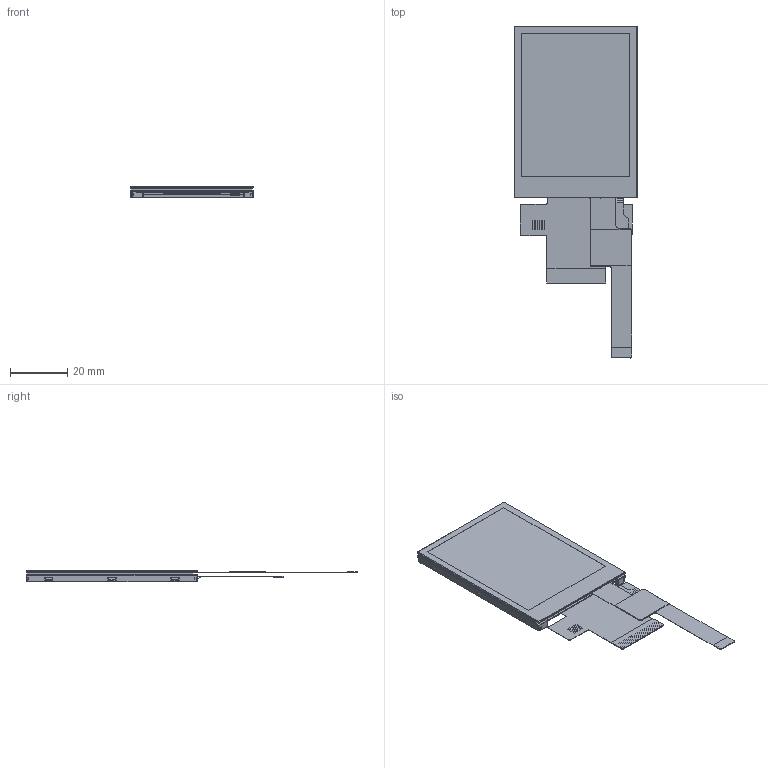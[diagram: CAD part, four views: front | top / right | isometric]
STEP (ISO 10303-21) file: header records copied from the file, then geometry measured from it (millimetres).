
FILE_DESCRIPTION (( 'STEP AP203' ), '1' );
FILE_NAME ('NHD-2.4-240320AF-CTXP-CTP.STEP', '2023-06-20T20:03:10', ( '' ), ( '' ), 'SwSTEP 2.0', 'SolidWorks 2019', '' );
FILE_SCHEMA (( 'CONFIG_CONTROL_DESIGN' ));
Length unit declared in the file: millimetre
Products named in the file (1): NHD-2.4-240320AF-CTXP-CTP
Bounding box: 43 x 115.76 x 4.12 mm (x, y, z)
Surface area: 41886.1 mm2 (no closed solid volume)
Topology: 0 solids, 37 shells, 861 faces, 2376 edges, 1566 vertices
Faces by surface type: plane 763, cylinder 86, cone 8, bspline 4
Entity records: 27205 total; most frequent: CARTESIAN_POINT 5224, ORIENTED_EDGE 4704, DIRECTION 4176, EDGE_CURVE 2376, VECTOR 2128, LINE 2128, VERTEX_POINT 1566, AXIS2_PLACEMENT_3D 1024
